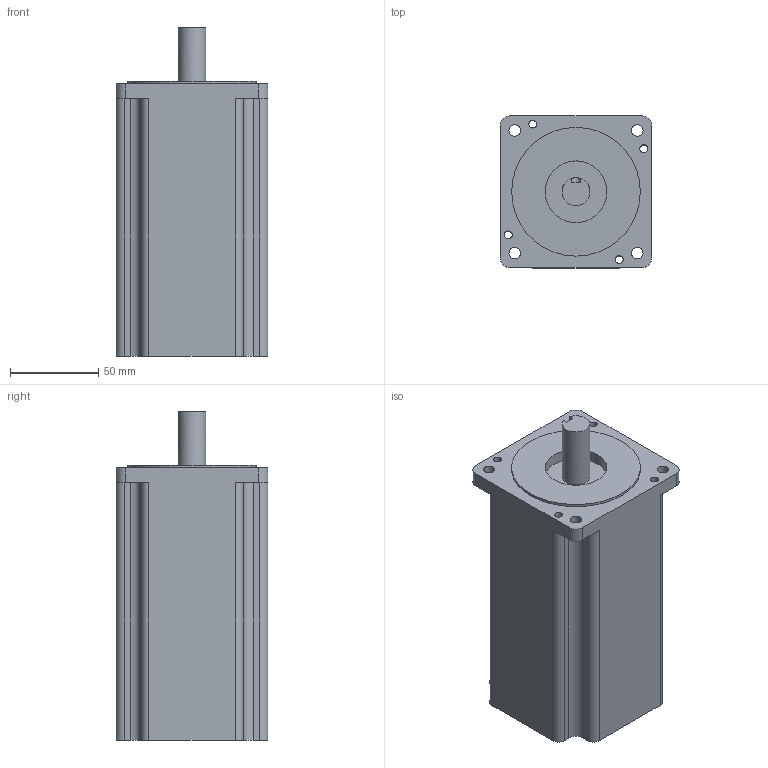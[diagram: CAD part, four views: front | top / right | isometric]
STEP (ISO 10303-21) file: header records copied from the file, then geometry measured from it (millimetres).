
FILE_DESCRIPTION(/* description */ (''),/* implementation_level */ '2;1');
FILE_NAME(/* name */ 'C:\Users\raffaele\Downloads\Projects\E&D\ipt-to-step-conversion\SLDPRT to STP\86SH156.stp',/* time_stamp */ '2021-04-07T17:16:33+02:00',/* author */ ('raffaele'),/* organization */ (''),/* preprocessor_version */ 'ST-DEVELOPER v18.1',/* originating_system */ 'Autodesk Inventor 2021',/* authorisation */ '');
FILE_SCHEMA (('AUTOMOTIVE_DESIGN { 1 0 10303 214 3 1 1 }'));
Length unit declared in the file: millimetre
Products named in the file (1): 86SH156
Bounding box: 86 x 86 x 186.35 mm (x, y, z)
Volume: 1024553.1 mm3; surface area: 76099.9 mm2
Topology: 1 solids, 1 shells, 52 faces, 141 edges, 94 vertices
Faces by surface type: cylinder 28, plane 24
Full cylindrical faces by diameter (mm): 4.5 x4, 6.5 x4, 15.875 x1, 35 x1, 73 x1
Entity records: 1749 total; most frequent: CARTESIAN_POINT 305, DIRECTION 302, ORIENTED_EDGE 282, EDGE_CURVE 141, AXIS2_PLACEMENT_3D 109, VERTEX_POINT 94, LINE 84, VECTOR 84
